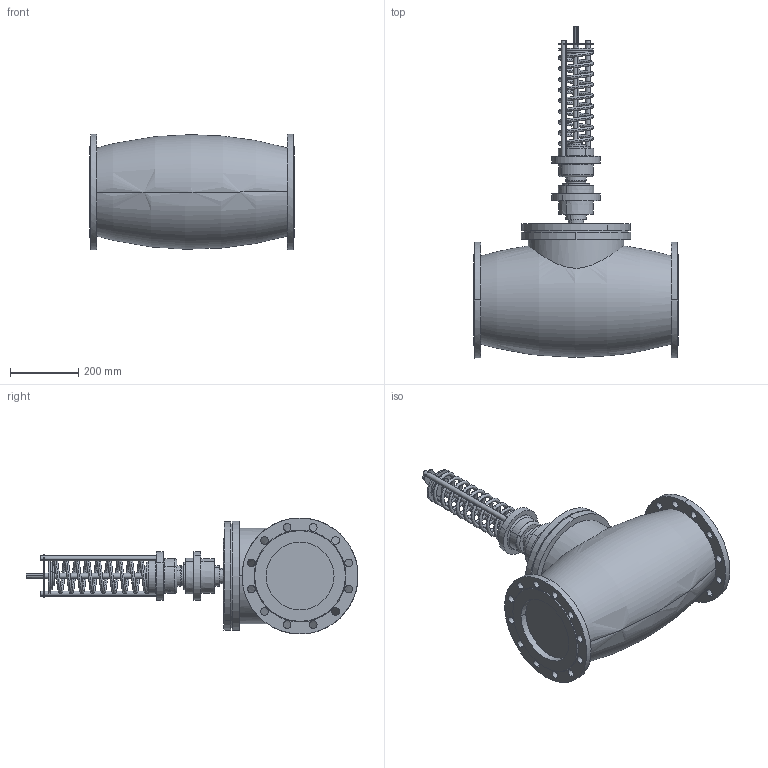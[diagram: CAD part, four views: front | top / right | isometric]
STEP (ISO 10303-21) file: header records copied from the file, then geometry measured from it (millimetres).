
FILE_DESCRIPTION (( 'STEP AP214' ), '1' );
FILE_NAME ('RDT, RDT-P DN-200 (0.1).STEP', '2025-12-12T07:33:40', ( '' ), ( '' ), 'SwSTEP 2.0', 'SolidWorks 2023', '' );
FILE_SCHEMA (( 'AUTOMOTIVE_DESIGN' ));
Length unit declared in the file: millimetre
Products named in the file (1): RDT, RDT-P DN-200 (0.1)
Bounding box: 600.01 x 973.35 x 340 mm (x, y, z)
Volume: 52641888.6 mm3; surface area: 1302977.6 mm2
Topology: 2 solids, 2 shells, 212 faces, 522 edges, 332 vertices
Faces by surface type: cylinder 107, plane 47, cone 41, torus 12, bspline 5
Entity records: 11419 total; most frequent: CARTESIAN_POINT 6133, DIRECTION 1173, ORIENTED_EDGE 1040, EDGE_CURVE 520, AXIS2_PLACEMENT_3D 491, VERTEX_POINT 332, EDGE_LOOP 288, CIRCLE 283
